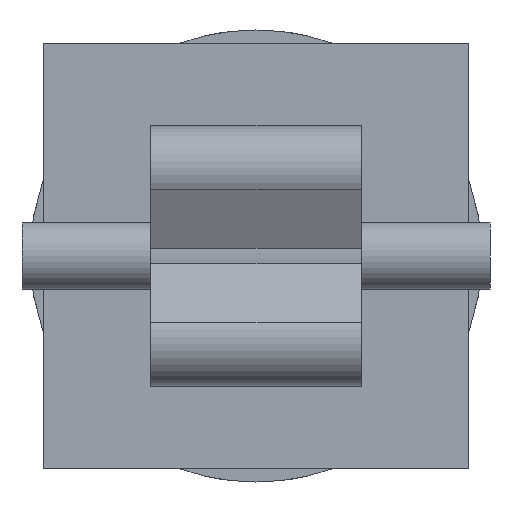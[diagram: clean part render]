
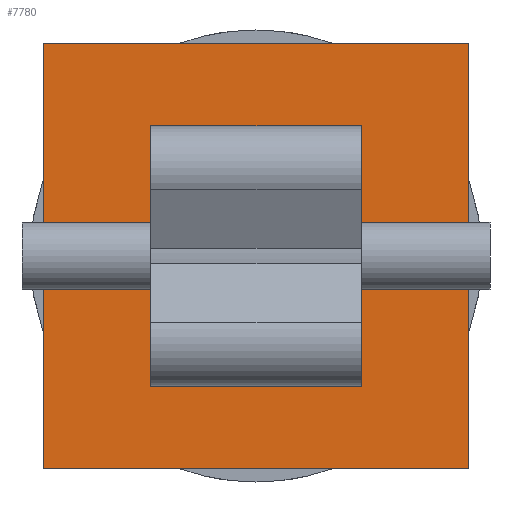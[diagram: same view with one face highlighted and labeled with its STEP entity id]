
A CAD part, front view. The second image highlights one B-rep face of the part: STEP entity #7780.
In plain terms, the highlighted planar face has unit normal (0, -1, 0) as drawn and (0, 1, 0) by its records, which use the part's own axes.
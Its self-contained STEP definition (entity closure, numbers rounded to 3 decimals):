
#830=CARTESIAN_POINT('',(-40.,25.5,40.));
#840=VERTEX_POINT('',#830);
#1590=CARTESIAN_POINT('',(-40.,25.5,-40.));
#1600=VERTEX_POINT('',#1590);
#1630=CARTESIAN_POINT('',(-40.,25.5,0.));
#1640=DIRECTION('',(0.,0.,-1.));
#1650=VECTOR('',#1640,1.);
#1660=LINE('',#1630,#1650);
#1670=EDGE_CURVE('',#840,#1600,#1660,.T.);
#3150=CARTESIAN_POINT('',(40.,25.5,40.));
#3160=VERTEX_POINT('',#3150);
#3510=CARTESIAN_POINT('',(40.,25.5,40.));
#3520=DIRECTION('',(-1.,0.,0.));
#3530=VECTOR('',#3520,1.);
#3540=LINE('',#3510,#3530);
#3550=EDGE_CURVE('',#3160,#840,#3540,.T.);
#7210=CARTESIAN_POINT('',(40.,25.5,-40.));
#7220=DIRECTION('',(0.,1.,0.));
#7230=DIRECTION('',(0.,0.,-1.));
#7240=AXIS2_PLACEMENT_3D('',#7210,#7220,#7230);
#7250=PLANE('',#7240);
#7260=ORIENTED_EDGE('',*,*,#3550,.F.);
#7270=ORIENTED_EDGE('',*,*,#1670,.F.);
#7280=CARTESIAN_POINT('',(0.,25.5,-40.));
#7290=DIRECTION('',(1.,0.,0.));
#7300=VECTOR('',#7290,1.);
#7310=LINE('',#7280,#7300);
#7320=CARTESIAN_POINT('',(40.,25.5,-40.));
#7330=VERTEX_POINT('',#7320);
#7340=EDGE_CURVE('',#1600,#7330,#7310,.T.);
#7350=ORIENTED_EDGE('',*,*,#7340,.F.);
#7360=CARTESIAN_POINT('',(40.,25.5,0.));
#7370=DIRECTION('',(0.,0.,-1.));
#7380=VECTOR('',#7370,1.);
#7390=LINE('',#7360,#7380);
#7400=EDGE_CURVE('',#3160,#7330,#7390,.T.);
#7410=ORIENTED_EDGE('',*,*,#7400,.T.);
#7420=EDGE_LOOP('',(#7410,#7350,#7270,#7260));
#7430=FACE_OUTER_BOUND('',#7420,.T.);
#7440=CARTESIAN_POINT('',(-18.,25.5,0.));
#7450=DIRECTION('',(0.,0.,1.));
#7460=VECTOR('',#7450,1.);
#7470=LINE('',#7440,#7460);
#7480=CARTESIAN_POINT('',(-18.,25.5,-18.));
#7490=VERTEX_POINT('',#7480);
#7500=CARTESIAN_POINT('',(-18.,25.5,18.));
#7510=VERTEX_POINT('',#7500);
#7520=EDGE_CURVE('',#7490,#7510,#7470,.T.);
#7530=ORIENTED_EDGE('',*,*,#7520,.F.);
#7540=CARTESIAN_POINT('',(0.,25.5,18.));
#7550=DIRECTION('',(1.,0.,0.));
#7560=VECTOR('',#7550,1.);
#7570=LINE('',#7540,#7560);
#7580=CARTESIAN_POINT('',(18.,25.5,18.));
#7590=VERTEX_POINT('',#7580);
#7600=EDGE_CURVE('',#7510,#7590,#7570,.T.);
#7610=ORIENTED_EDGE('',*,*,#7600,.F.);
#7620=CARTESIAN_POINT('',(18.,25.5,0.));
#7630=DIRECTION('',(0.,0.,-1.));
#7640=VECTOR('',#7630,1.);
#7650=LINE('',#7620,#7640);
#7660=CARTESIAN_POINT('',(18.,25.5,-18.));
#7670=VERTEX_POINT('',#7660);
#7680=EDGE_CURVE('',#7590,#7670,#7650,.T.);
#7690=ORIENTED_EDGE('',*,*,#7680,.F.);
#7700=CARTESIAN_POINT('',(0.,25.5,-18.));
#7710=DIRECTION('',(-1.,0.,0.));
#7720=VECTOR('',#7710,1.);
#7730=LINE('',#7700,#7720);
#7740=EDGE_CURVE('',#7670,#7490,#7730,.T.);
#7750=ORIENTED_EDGE('',*,*,#7740,.F.);
#7760=EDGE_LOOP('',(#7750,#7690,#7610,#7530));
#7770=FACE_BOUND('',#7760,.T.);
#7780=ADVANCED_FACE('',(#7430,#7770),#7250,.T.);
